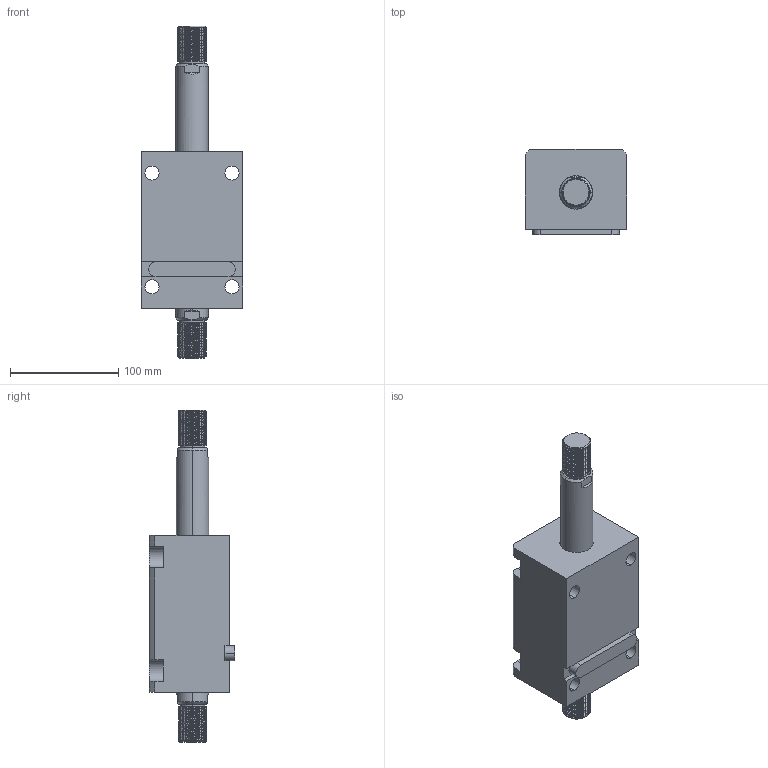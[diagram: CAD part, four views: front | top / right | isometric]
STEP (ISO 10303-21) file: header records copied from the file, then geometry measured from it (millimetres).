
FILE_DESCRIPTION (( 'STEP AP203' ), '1' );
FILE_NAME ('CHTB-LW50-70W.STEP', '2018-05-18T08:48:25', ( '' ), ( '' ), 'SwSTEP 2.0', 'SolidWorks 2015', '' );
FILE_SCHEMA (( 'CONFIG_CONTROL_DESIGN' ));
Length unit declared in the file: millimetre
Products named in the file (4): CHTM-SDMA50QG; 活塞杆LW50-70W; CHTB-LW50-70W; 掛极LW50-70W
Assembly tree (3 placements, depth 2):
  CHTB-LW50-70W
    掛极LW50-70W
    活塞杆LW50-70W
    CHTM-SDMA50QG
Bounding box: 94 x 79 x 307 mm (x, y, z)
Volume: 964377.3 mm3; surface area: 147448.3 mm2
Topology: 3 solids, 3 shells, 310 faces, 854 edges, 568 vertices
Faces by surface type: cylinder 186, plane 63, cone 27, bspline 18, torus 16
Entity records: 19510 total; most frequent: CARTESIAN_POINT 11940, ORIENTED_EDGE 1700, DIRECTION 1310, EDGE_CURVE 850, VERTEX_POINT 568, AXIS2_PLACEMENT_3D 503, EDGE_LOOP 348, FACE_OUTER_BOUND 310
